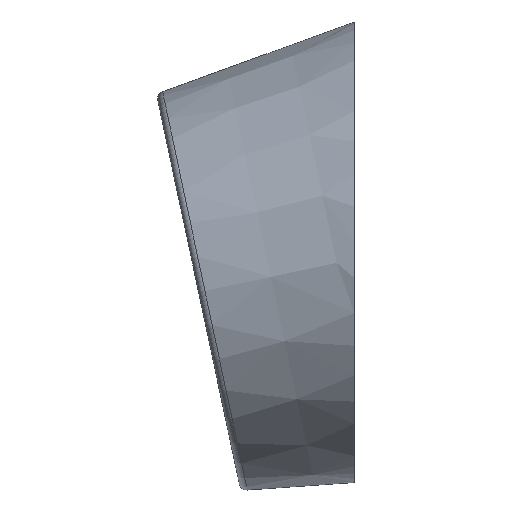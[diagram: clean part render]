
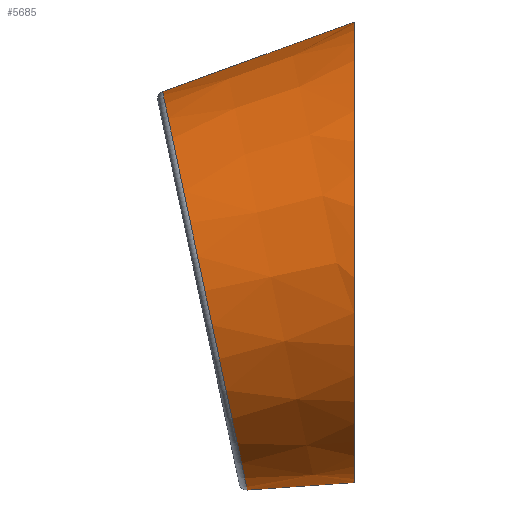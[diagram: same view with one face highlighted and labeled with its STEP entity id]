
A CAD part, left-side view. The second image highlights one B-rep face of the part: STEP entity #5685.
In plain terms, the highlighted conical face has half-angle 8 degrees and reference radius 108.284 mm.
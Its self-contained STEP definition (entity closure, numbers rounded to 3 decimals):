
#3 = CARTESIAN_POINT ( 'NONE',  ( -28.453, 26.549, -92.362 ) ) ;
#12 = EDGE_CURVE ( 'NONE', #3726, #3372, #6484, .T. ) ;
#457 = CARTESIAN_POINT ( 'NONE',  ( -28.453, 26.549, -92.362 ) ) ;
#512 = CARTESIAN_POINT ( 'NONE',  ( -28.453, -30.424, 156.597 ) ) ;
#749 = FACE_OUTER_BOUND ( 'NONE', #7871, .T. ) ;
#804 = CARTESIAN_POINT ( 'NONE',  ( -267.968, -30.424, 156.597 ) ) ;
#1060 = CARTESIAN_POINT ( 'NONE',  ( -28.453, 71.576, 119.472 ) ) ;
#1438 = CARTESIAN_POINT ( 'NONE',  ( -28.453, -30.424, -88.378 ) ) ;
#1487 = CARTESIAN_POINT ( 'NONE',  ( -28.453, -30.424, 156.597 ) ) ;
#1915 = EDGE_CURVE ( 'NONE', #5636, #3726, #3643, .T. ) ;
#1984 = AXIS2_PLACEMENT_3D ( 'NONE', #4310, #4257, #7172 ) ;
#2109 = ORIENTED_EDGE ( 'NONE', *, *, #12, .T. ) ;
#2159 = ORIENTED_EDGE ( 'NONE', *, *, #8969, .F. ) ;
#3372 = VERTEX_POINT ( 'NONE', #6691 ) ;
#3389 = VECTOR ( 'NONE', #6986, 1000. ) ;
#3466 =( BOUNDED_CURVE ( )  B_SPLINE_CURVE ( 3, ( #1487, #804, #4492, #1438 ),
 .UNSPECIFIED., .F., .F. ) 
 B_SPLINE_CURVE_WITH_KNOTS ( ( 4, 4 ),
 ( 0., 3.142 ),
 .UNSPECIFIED. ) 
 CURVE ( )  GEOMETRIC_REPRESENTATION_ITEM ( )  RATIONAL_B_SPLINE_CURVE ( ( 1., 0.333, 0.333, 1. ) ) 
 REPRESENTATION_ITEM ( '' )  );
#3643 = CIRCLE ( 'NONE', #1984, 108.283 ) ;
#3726 = VERTEX_POINT ( 'NONE', #457 ) ;
#4257 = DIRECTION ( 'NONE',  ( 0., -0.978, 0.208 ) ) ;
#4310 = CARTESIAN_POINT ( 'NONE',  ( -28.453, 49.063, 13.555 ) ) ;
#4492 = CARTESIAN_POINT ( 'NONE',  ( -267.968, -30.424, -88.378 ) ) ;
#4726 = ORIENTED_EDGE ( 'NONE', *, *, #1915, .T. ) ;
#5140 = DIRECTION ( 'NONE',  ( 0., 0.208, 0.978 ) ) ;
#5288 = DIRECTION ( 'NONE',  ( 0., -0.978, 0.208 ) ) ;
#5636 = VERTEX_POINT ( 'NONE', #5674 ) ;
#5674 = CARTESIAN_POINT ( 'NONE',  ( -28.453, 71.576, 119.472 ) ) ;
#5685 = ADVANCED_FACE ( 'NONE', ( #749 ), #7570, .T. ) ;
#6484 = LINE ( 'NONE', #3, #7820 ) ;
#6534 = CARTESIAN_POINT ( 'NONE',  ( -28.453, 49.063, 13.555 ) ) ;
#6682 = AXIS2_PLACEMENT_3D ( 'NONE', #6534, #5288, #5140 ) ;
#6691 = CARTESIAN_POINT ( 'NONE',  ( -28.453, -30.424, -88.378 ) ) ;
#6986 = DIRECTION ( 'NONE',  ( 0., -0.94, 0.342 ) ) ;
#7172 = DIRECTION ( 'NONE',  ( 0., 0.208, 0.978 ) ) ;
#7570 = CONICAL_SURFACE ( 'NONE', #6682, 108.283, 0.14 ) ;
#7679 = ORIENTED_EDGE ( 'NONE', *, *, #8469, .F. ) ;
#7820 = VECTOR ( 'NONE', #8100, 1000. ) ;
#7871 = EDGE_LOOP ( 'NONE', ( #4726, #2109, #2159, #7679 ) ) ;
#7974 = VERTEX_POINT ( 'NONE', #512 ) ;
#8100 = DIRECTION ( 'NONE',  ( 0., -0.998, 0.07 ) ) ;
#8225 = LINE ( 'NONE', #1060, #3389 ) ;
#8469 = EDGE_CURVE ( 'NONE', #5636, #7974, #8225, .T. ) ;
#8969 = EDGE_CURVE ( 'NONE', #7974, #3372, #3466, .T. ) ;
